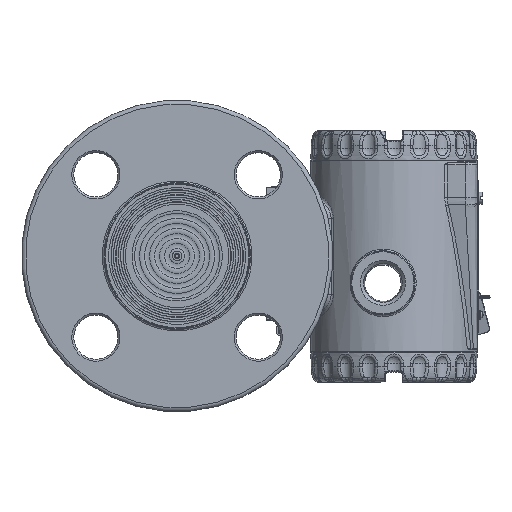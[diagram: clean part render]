
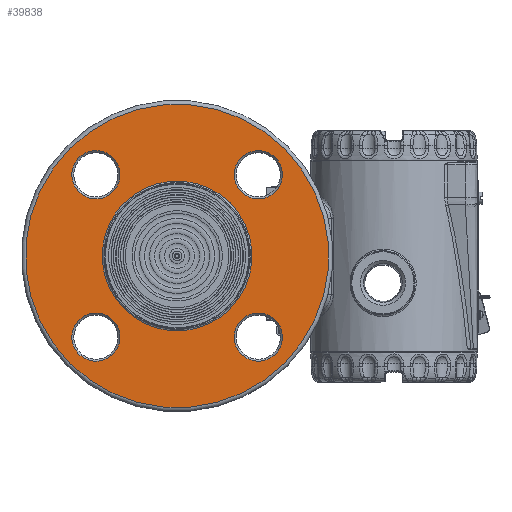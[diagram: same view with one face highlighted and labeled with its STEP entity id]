
A CAD part, top view. The second image highlights one B-rep face of the part: STEP entity #39838.
In plain terms, the highlighted planar face has unit normal (0, 0, 1) as drawn and (-1, 0, 0) by its records, which use the part's own axes.
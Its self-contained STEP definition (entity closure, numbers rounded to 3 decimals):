
#665=FACE_BOUND('',#6585,.T.);
#666=FACE_BOUND('',#6586,.T.);
#667=FACE_BOUND('',#6587,.T.);
#668=FACE_BOUND('',#6588,.T.);
#669=FACE_BOUND('',#6589,.T.);
#2566=PLANE('',#44264);
#3930=FACE_OUTER_BOUND('',#6584,.T.);
#6584=EDGE_LOOP('',(#30440,#30441));
#6585=EDGE_LOOP('',(#30442));
#6586=EDGE_LOOP('',(#30443));
#6587=EDGE_LOOP('',(#30444,#30445));
#6588=EDGE_LOOP('',(#30446));
#6589=EDGE_LOOP('',(#30447));
#13148=CIRCLE('',#44263,12.);
#13149=CIRCLE('',#44265,75.5);
#13150=CIRCLE('',#44266,75.5);
#13151=CIRCLE('',#44267,12.);
#13152=CIRCLE('',#44268,12.);
#13153=CIRCLE('',#44269,37.3);
#13154=CIRCLE('',#44270,37.3);
#13155=CIRCLE('',#44271,12.);
#17457=VERTEX_POINT('',#70449);
#17458=VERTEX_POINT('',#70453);
#17459=VERTEX_POINT('',#70454);
#17460=VERTEX_POINT('',#70457);
#17461=VERTEX_POINT('',#70459);
#17462=VERTEX_POINT('',#70461);
#17463=VERTEX_POINT('',#70462);
#17464=VERTEX_POINT('',#70465);
#22060=EDGE_CURVE('',#17457,#17457,#13148,.T.);
#22062=EDGE_CURVE('',#17458,#17459,#13149,.T.);
#22063=EDGE_CURVE('',#17459,#17458,#13150,.T.);
#22064=EDGE_CURVE('',#17460,#17460,#13151,.T.);
#22065=EDGE_CURVE('',#17461,#17461,#13152,.T.);
#22066=EDGE_CURVE('',#17462,#17463,#13153,.T.);
#22067=EDGE_CURVE('',#17463,#17462,#13154,.T.);
#22068=EDGE_CURVE('',#17464,#17464,#13155,.T.);
#30440=ORIENTED_EDGE('',*,*,#22062,.F.);
#30441=ORIENTED_EDGE('',*,*,#22063,.F.);
#30442=ORIENTED_EDGE('',*,*,#22064,.F.);
#30443=ORIENTED_EDGE('',*,*,#22065,.F.);
#30444=ORIENTED_EDGE('',*,*,#22066,.T.);
#30445=ORIENTED_EDGE('',*,*,#22067,.T.);
#30446=ORIENTED_EDGE('',*,*,#22068,.F.);
#30447=ORIENTED_EDGE('',*,*,#22060,.F.);
#39838=ADVANCED_FACE('',(#3930,#665,#666,#667,#668,#669),#2566,.T.);
#44263=AXIS2_PLACEMENT_3D('',#70450,#52122,#52123);
#44264=AXIS2_PLACEMENT_3D('',#70452,#52125,#52126);
#44265=AXIS2_PLACEMENT_3D('',#70455,#52127,#52128);
#44266=AXIS2_PLACEMENT_3D('',#70456,#52129,#52130);
#44267=AXIS2_PLACEMENT_3D('',#70458,#52131,#52132);
#44268=AXIS2_PLACEMENT_3D('',#70460,#52133,#52134);
#44269=AXIS2_PLACEMENT_3D('',#70463,#52135,#52136);
#44270=AXIS2_PLACEMENT_3D('',#70464,#52137,#52138);
#44271=AXIS2_PLACEMENT_3D('',#70466,#52139,#52140);
#52122=DIRECTION('center_axis',(-1.,0.,0.));
#52123=DIRECTION('ref_axis',(0.,-1.,0.));
#52125=DIRECTION('center_axis',(-1.,0.,0.));
#52126=DIRECTION('ref_axis',(0.,0.,1.));
#52127=DIRECTION('center_axis',(1.,0.,0.));
#52128=DIRECTION('ref_axis',(0.,1.,0.));
#52129=DIRECTION('center_axis',(1.,0.,0.));
#52130=DIRECTION('ref_axis',(0.,1.,0.));
#52131=DIRECTION('center_axis',(-1.,0.,0.));
#52132=DIRECTION('ref_axis',(0.,0.,1.));
#52133=DIRECTION('center_axis',(-1.,0.,0.));
#52134=DIRECTION('ref_axis',(0.,0.,-1.));
#52135=DIRECTION('center_axis',(1.,0.,0.));
#52136=DIRECTION('ref_axis',(0.,1.,0.));
#52137=DIRECTION('center_axis',(1.,0.,0.));
#52138=DIRECTION('ref_axis',(0.,1.,0.));
#52139=DIRECTION('center_axis',(-1.,0.,0.));
#52140=DIRECTION('ref_axis',(0.,1.,0.));
#70449=CARTESIAN_POINT('',(7.,69.15,0.));
#70450=CARTESIAN_POINT('Origin',(7.,57.15,0.));
#70452=CARTESIAN_POINT('Origin',(7.,56.4,0.));
#70453=CARTESIAN_POINT('',(7.,75.5,0.));
#70454=CARTESIAN_POINT('',(7.,0.,75.5));
#70455=CARTESIAN_POINT('Origin',(7.,0.,0.));
#70456=CARTESIAN_POINT('Origin',(7.,0.,0.));
#70457=CARTESIAN_POINT('',(7.,0.,-69.15));
#70458=CARTESIAN_POINT('Origin',(7.,0.,-57.15));
#70459=CARTESIAN_POINT('',(7.,0.,69.15));
#70460=CARTESIAN_POINT('Origin',(7.,0.,57.15));
#70461=CARTESIAN_POINT('',(7.,37.3,0.));
#70462=CARTESIAN_POINT('',(7.,0.,37.3));
#70463=CARTESIAN_POINT('Origin',(7.,0.,0.));
#70464=CARTESIAN_POINT('Origin',(7.,0.,0.));
#70465=CARTESIAN_POINT('',(7.,-69.15,0.));
#70466=CARTESIAN_POINT('Origin',(7.,-57.15,0.));
